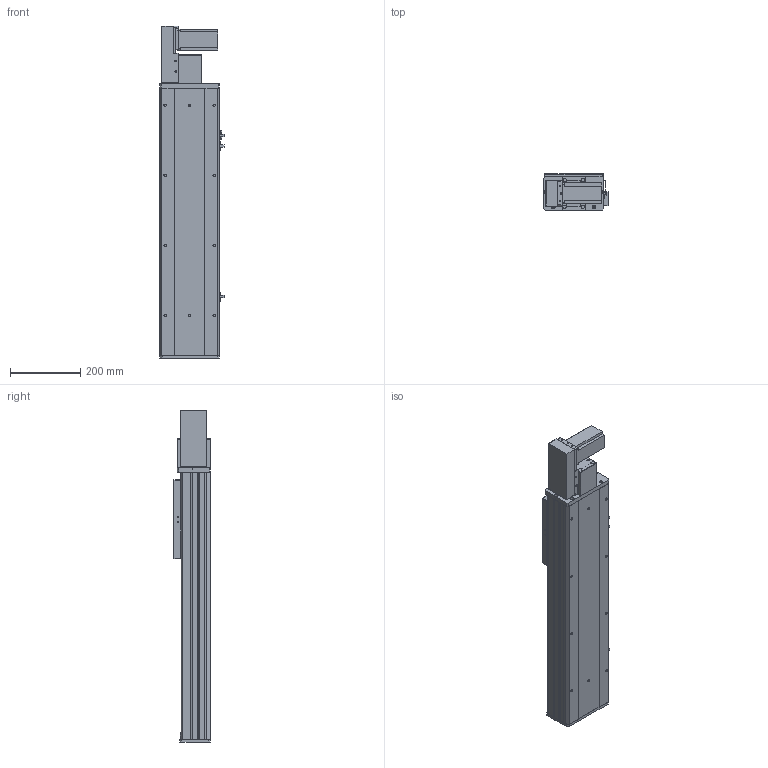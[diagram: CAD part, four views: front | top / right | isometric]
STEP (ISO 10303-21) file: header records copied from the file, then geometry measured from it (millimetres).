
FILE_DESCRIPTION (( 'STEP AP203' ), '1' );
FILE_NAME ('Y170CB-D105-S450-BL-P400W.STEP', '2020-02-20T01:06:16', ( '微软用户' ), ( '微软中国' ), 'SwSTEP 2.0', 'SolidWorks 2017', '' );
FILE_SCHEMA (( 'CONFIG_CONTROL_DESIGN' ));
Length unit declared in the file: millimetre
Products named in the file (18): Y1埴倛裔; 70C--詩湍揤踡え-; B-源倛裔啣; Y170CB-D105-S450-BL-P400W; 70CB--耜裔; 17B-耜蚾蟀諉啣----; 70C-雄赽釱-奻-; 0B-萇儂楊擘啣; 0C--雄赽釱俋欶-170; san松下电机400不带刹车----; 70CB-詩湍--; Y70俋欶BR----; Y100-135俋离換覜ん--; 70CB-掛极-; Y170CB-陔俋离換覜結え---; --70CB --喘謫眊楊擘啣-; 70B喘謫眊----; 70CB-耜裔啣-
Assembly tree (21 placements, depth 2):
  Y170CB-D105-S450-BL-P400W
    B-源倛裔啣
    17B-耜蚾蟀諉啣----
    0B-萇儂楊擘啣
    san松下电机400不带刹车----
    Y70俋欶BR----
    70CB-掛极-
    --70CB --喘謫眊楊擘啣-
    70CB-耜裔啣-  x2
    70C--詩湍揤踡え-  x2
    70CB--耜裔
    70C-雄赽釱-奻-
    0C--雄赽釱俋欶-170
    70CB-詩湍--
    Y100-135俋离換覜ん--  x3
    Y170CB-陔俋离換覜結え---
    70B喘謫眊----
    Y1埴倛裔
Bounding box: 183.5 x 107 x 947 mm (x, y, z)
Volume: 4372430 mm3; surface area: 1552564.1 mm2
Topology: 21 solids, 21 shells, 983 faces, 2621 edges, 1738 vertices
Faces by surface type: cylinder 495, plane 464, cone 24
Entity records: 31152 total; most frequent: CARTESIAN_POINT 5676, DIRECTION 5062, ORIENTED_EDGE 4724, EDGE_CURVE 2362, AXIS2_PLACEMENT_3D 1844, VERTEX_POINT 1568, VECTOR 1374, LINE 1374
